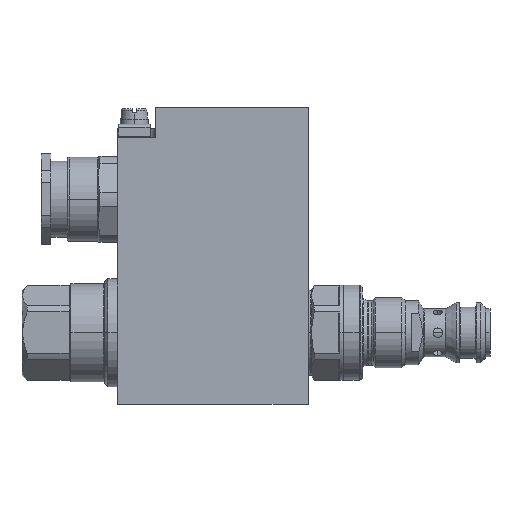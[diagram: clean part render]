
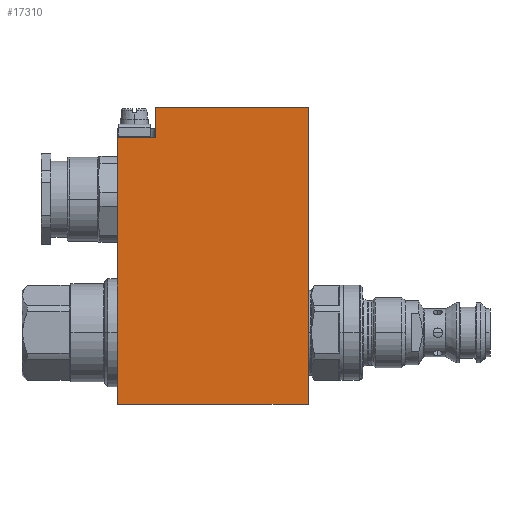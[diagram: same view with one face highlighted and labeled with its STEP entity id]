
A CAD part, top view. The second image highlights one B-rep face of the part: STEP entity #17310.
In plain terms, the highlighted planar face has unit normal (0, 0, 1).
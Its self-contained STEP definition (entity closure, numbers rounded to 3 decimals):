
#45 = CARTESIAN_POINT ( 'NONE',  ( -77.2, 61.3, 22.5 ) ) ;
#509 = CARTESIAN_POINT ( 'NONE',  ( -65.2, 61.3, 22.5 ) ) ;
#795 = VERTEX_POINT ( 'NONE', #11274 ) ;
#1436 = CARTESIAN_POINT ( 'NONE',  ( -77.2, -22.5, 22.5 ) ) ;
#1645 = LINE ( 'NONE', #13032, #10244 ) ;
#1953 = EDGE_CURVE ( 'NONE', #18206, #795, #10528, .T. ) ;
#2351 = CARTESIAN_POINT ( 'NONE',  ( -65.2, 61.3, 22.5 ) ) ;
#2594 = ORIENTED_EDGE ( 'NONE', *, *, #17737, .T. ) ;
#2771 = CARTESIAN_POINT ( 'NONE',  ( -17.2, -22.5, 22.5 ) ) ;
#3541 = EDGE_LOOP ( 'NONE', ( #2594, #13969, #13555, #13849, #10171, #15680 ) ) ;
#4019 = VERTEX_POINT ( 'NONE', #9747 ) ;
#4662 = EDGE_CURVE ( 'NONE', #10989, #4019, #12488, .T. ) ;
#4678 = DIRECTION ( 'NONE',  ( 0., 0., -1. ) ) ;
#4906 = DIRECTION ( 'NONE',  ( 0., 1., 0. ) ) ;
#5491 = DIRECTION ( 'NONE',  ( 1., 0., 0. ) ) ;
#5515 = LINE ( 'NONE', #1436, #6365 ) ;
#5701 = PLANE ( 'NONE',  #9355 ) ;
#6017 = EDGE_CURVE ( 'NONE', #15463, #18206, #15121, .T. ) ;
#6365 = VECTOR ( 'NONE', #11154, 1000. ) ;
#7670 = CARTESIAN_POINT ( 'NONE',  ( -17.2, -22.5, 22.5 ) ) ;
#8161 = DIRECTION ( 'NONE',  ( -1., 0., 0. ) ) ;
#8789 = EDGE_CURVE ( 'NONE', #15463, #4019, #5515, .T. ) ;
#8927 = CARTESIAN_POINT ( 'NONE',  ( -17.2, -22.5, 22.5 ) ) ;
#9217 = LINE ( 'NONE', #7670, #13306 ) ;
#9355 = AXIS2_PLACEMENT_3D ( 'NONE', #8927, #4678, #14669 ) ;
#9469 = CARTESIAN_POINT ( 'NONE',  ( -77.2, 61.3, 22.5 ) ) ;
#9523 = CARTESIAN_POINT ( 'NONE',  ( -17.2, -22.5, 22.5 ) ) ;
#9747 = CARTESIAN_POINT ( 'NONE',  ( -77.2, -22.5, 22.5 ) ) ;
#9867 = VECTOR ( 'NONE', #8161, 1000. ) ;
#10171 = ORIENTED_EDGE ( 'NONE', *, *, #4662, .F. ) ;
#10244 = VECTOR ( 'NONE', #15637, 1000. ) ;
#10528 = LINE ( 'NONE', #2351, #16710 ) ;
#10712 = CARTESIAN_POINT ( 'NONE',  ( -17.2, 70.8, 22.5 ) ) ;
#10989 = VERTEX_POINT ( 'NONE', #2771 ) ;
#11154 = DIRECTION ( 'NONE',  ( 0., -1., 0. ) ) ;
#11274 = CARTESIAN_POINT ( 'NONE',  ( -65.2, 70.8, 22.5 ) ) ;
#12488 = LINE ( 'NONE', #9523, #9867 ) ;
#12560 = FACE_OUTER_BOUND ( 'NONE', #3541, .T. ) ;
#13032 = CARTESIAN_POINT ( 'NONE',  ( -17.2, 70.8, 22.5 ) ) ;
#13306 = VECTOR ( 'NONE', #13305, 1000. ) ;
#13305 = DIRECTION ( 'NONE',  ( 0., -1., 0. ) ) ;
#13352 = EDGE_CURVE ( 'NONE', #16856, #10989, #9217, .T. ) ;
#13555 = ORIENTED_EDGE ( 'NONE', *, *, #6017, .F. ) ;
#13849 = ORIENTED_EDGE ( 'NONE', *, *, #8789, .T. ) ;
#13969 = ORIENTED_EDGE ( 'NONE', *, *, #1953, .F. ) ;
#14669 = DIRECTION ( 'NONE',  ( -1., 0., 0. ) ) ;
#15121 = LINE ( 'NONE', #9469, #18108 ) ;
#15463 = VERTEX_POINT ( 'NONE', #45 ) ;
#15637 = DIRECTION ( 'NONE',  ( -1., 0., 0. ) ) ;
#15680 = ORIENTED_EDGE ( 'NONE', *, *, #13352, .F. ) ;
#16710 = VECTOR ( 'NONE', #4906, 1000. ) ;
#16856 = VERTEX_POINT ( 'NONE', #10712 ) ;
#17310 = ADVANCED_FACE ( 'NONE', ( #12560 ), #5701, .F. ) ;
#17737 = EDGE_CURVE ( 'NONE', #16856, #795, #1645, .T. ) ;
#18108 = VECTOR ( 'NONE', #5491, 1000. ) ;
#18206 = VERTEX_POINT ( 'NONE', #509 ) ;
